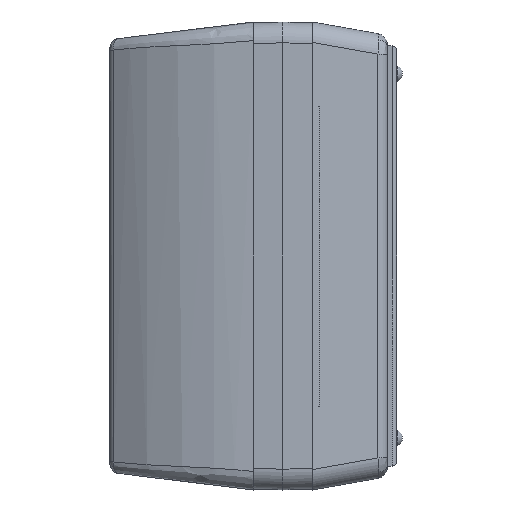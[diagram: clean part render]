
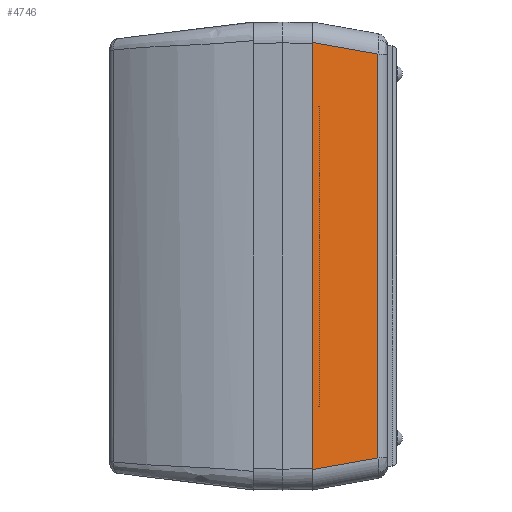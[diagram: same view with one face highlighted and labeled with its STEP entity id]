
A CAD part, left-side view. The second image highlights one B-rep face of the part: STEP entity #4746.
In plain terms, the highlighted planar face has unit normal (-0.985, -0.174, 0).
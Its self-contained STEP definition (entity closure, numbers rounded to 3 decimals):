
#16 = DIRECTION ( 'NONE',  ( 0.174, -0.985, 0. ) ) ;
#628 = CARTESIAN_POINT ( 'NONE',  ( -95.3, 0., 50.7 ) ) ;
#943 = VERTEX_POINT ( 'NONE', #4149 ) ;
#1262 = AXIS2_PLACEMENT_3D ( 'NONE', #26984, #14767, #16 ) ;
#1432 = CARTESIAN_POINT ( 'NONE',  ( -95.43, 0.736, 46.398 ) ) ;
#2475 = VERTEX_POINT ( 'NONE', #9237 ) ;
#3099 = DIRECTION ( 'NONE',  ( 0., 0., 1. ) ) ;
#3500 = VECTOR ( 'NONE', #3909, 1000. ) ;
#3909 = DIRECTION ( 'NONE',  ( -0.171, 0.97, 0.171 ) ) ;
#4149 = CARTESIAN_POINT ( 'NONE',  ( -92.79, -14.234, -43.759 ) ) ;
#4746 = ADVANCED_FACE ( 'NONE', ( #21277 ), #29491, .T. ) ;
#4863 = VERTEX_POINT ( 'NONE', #25069 ) ;
#5101 = CARTESIAN_POINT ( 'NONE',  ( -92.462, -16.097, -43.43 ) ) ;
#6932 = EDGE_CURVE ( 'NONE', #23495, #4863, #23133, .T. ) ;
#8743 = VECTOR ( 'NONE', #26790, 1000. ) ;
#9237 = CARTESIAN_POINT ( 'NONE',  ( -95.3, 0., -46.268 ) ) ;
#9625 = CARTESIAN_POINT ( 'NONE',  ( -92.79, -14.234, 47.826 ) ) ;
#9866 = ORIENTED_EDGE ( 'NONE', *, *, #6932, .T. ) ;
#13273 = ORIENTED_EDGE ( 'NONE', *, *, #31192, .F. ) ;
#13348 = ORIENTED_EDGE ( 'NONE', *, *, #29226, .T. ) ;
#13726 = LINE ( 'NONE', #9625, #8743 ) ;
#13738 = CARTESIAN_POINT ( 'NONE',  ( -92.79, -14.234, 43.759 ) ) ;
#14767 = DIRECTION ( 'NONE',  ( -0.985, -0.174, 0. ) ) ;
#15003 = DIRECTION ( 'NONE',  ( 0.171, -0.97, 0.171 ) ) ;
#18788 = VECTOR ( 'NONE', #3099, 1000. ) ;
#19582 = ORIENTED_EDGE ( 'NONE', *, *, #26564, .T. ) ;
#21277 = FACE_OUTER_BOUND ( 'NONE', #26373, .T. ) ;
#23133 = LINE ( 'NONE', #1432, #3500 ) ;
#23495 = VERTEX_POINT ( 'NONE', #13738 ) ;
#23846 = VECTOR ( 'NONE', #15003, 1000. ) ;
#25069 = CARTESIAN_POINT ( 'NONE',  ( -95.3, 0., 46.268 ) ) ;
#26373 = EDGE_LOOP ( 'NONE', ( #13273, #13348, #19582, #9866 ) ) ;
#26564 = EDGE_CURVE ( 'NONE', #943, #23495, #13726, .T. ) ;
#26790 = DIRECTION ( 'NONE',  ( 0., 0., 1. ) ) ;
#26984 = CARTESIAN_POINT ( 'NONE',  ( -95.3, 0., 50.7 ) ) ;
#29226 = EDGE_CURVE ( 'NONE', #2475, #943, #31911, .T. ) ;
#29491 = PLANE ( 'NONE',  #1262 ) ;
#31192 = EDGE_CURVE ( 'NONE', #2475, #4863, #31828, .T. ) ;
#31828 = LINE ( 'NONE', #628, #18788 ) ;
#31911 = LINE ( 'NONE', #5101, #23846 ) ;
